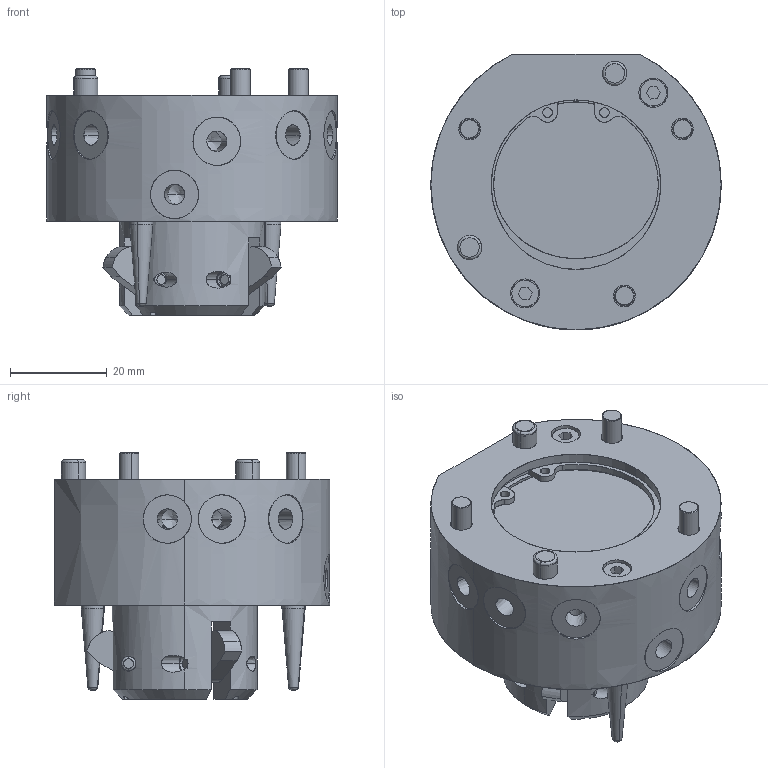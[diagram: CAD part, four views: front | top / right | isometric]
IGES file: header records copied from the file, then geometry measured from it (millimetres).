
Start section: Comment
Global section: file name: 99-0059A.igs; native system: Parasolid(12.0); preprocessor: Pariges 4.4; author: Author; organization: Title; date: 20010710.094420; units: millimetre
Bounding box: 60 x 57 x 51 mm (x, y, z)
Surface area: 27150.5 mm2 (no closed solid volume)
Topology: 0 solids, 0 shells, 467 faces, 6020 edges, 5992 vertices
Faces by surface type: revolution 320, extrusion 146, bspline 1
